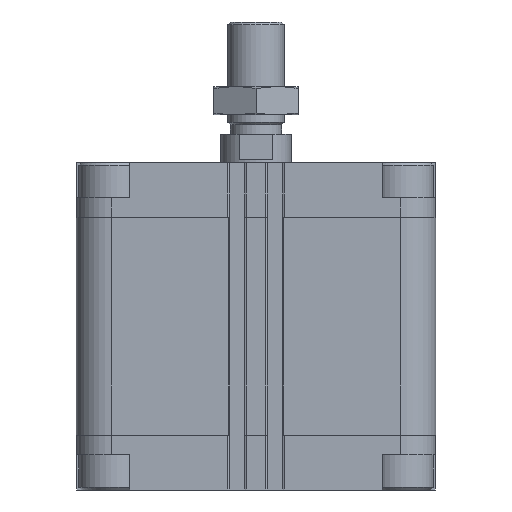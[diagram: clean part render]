
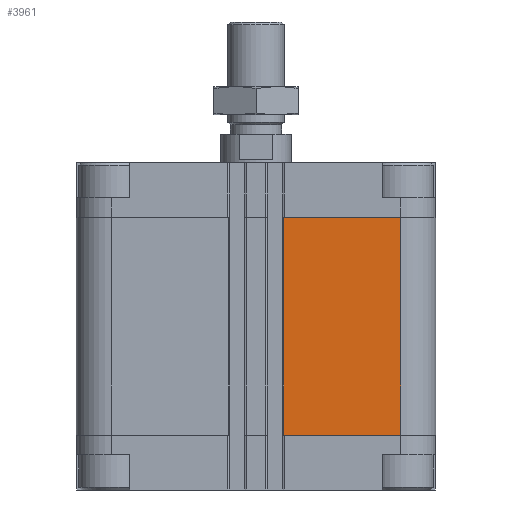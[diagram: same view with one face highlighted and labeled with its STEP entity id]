
A CAD part, front view. The second image highlights one B-rep face of the part: STEP entity #3961.
In plain terms, the highlighted planar face has unit normal (0, -1, 0).
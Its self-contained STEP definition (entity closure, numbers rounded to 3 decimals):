
#1477 = EDGE_CURVE ( 'NONE', #13736, #18352, #7879, .T. ) ;
#1936 = CARTESIAN_POINT ( 'NONE',  ( 51.5, -64., -97. ) ) ;
#2299 = LINE ( 'NONE', #15270, #6218 ) ;
#3273 = EDGE_CURVE ( 'NONE', #14099, #18352, #5428, .T. ) ;
#3554 = DIRECTION ( 'NONE',  ( 1., 0., 0. ) ) ;
#3961 = ADVANCED_FACE ( 'NONE', ( #14646 ), #14748, .T. ) ;
#3980 = ORIENTED_EDGE ( 'NONE', *, *, #16015, .T. ) ;
#5192 = LINE ( 'NONE', #15420, #13385 ) ;
#5428 = LINE ( 'NONE', #1936, #15079 ) ;
#5575 = EDGE_LOOP ( 'NONE', ( #13918, #18351, #3980, #19923 ) ) ;
#6218 = VECTOR ( 'NONE', #10540, 1000. ) ;
#6373 = VECTOR ( 'NONE', #19770, 1000. ) ;
#7850 = CARTESIAN_POINT ( 'NONE',  ( 9.95, -64., -19.5 ) ) ;
#7879 = LINE ( 'NONE', #13064, #6373 ) ;
#9357 = DIRECTION ( 'NONE',  ( 0., -1., 0. ) ) ;
#9586 = CARTESIAN_POINT ( 'NONE',  ( 51.5, -64., -97. ) ) ;
#10540 = DIRECTION ( 'NONE',  ( 0., 0., 1. ) ) ;
#12150 = DIRECTION ( 'NONE',  ( 0., 0., 1. ) ) ;
#13064 = CARTESIAN_POINT ( 'NONE',  ( 9.95, -64., -19.5 ) ) ;
#13385 = VECTOR ( 'NONE', #3554, 1000. ) ;
#13736 = VERTEX_POINT ( 'NONE', #7850 ) ;
#13918 = ORIENTED_EDGE ( 'NONE', *, *, #1477, .F. ) ;
#13938 = VERTEX_POINT ( 'NONE', #13999 ) ;
#13999 = CARTESIAN_POINT ( 'NONE',  ( 9.95, -64., -97. ) ) ;
#14099 = VERTEX_POINT ( 'NONE', #9586 ) ;
#14646 = FACE_OUTER_BOUND ( 'NONE', #5575, .T. ) ;
#14748 = PLANE ( 'NONE',  #19263 ) ;
#15079 = VECTOR ( 'NONE', #12150, 1000. ) ;
#15270 = CARTESIAN_POINT ( 'NONE',  ( 9.95, -64., -97. ) ) ;
#15420 = CARTESIAN_POINT ( 'NONE',  ( 9.95, -64., -97. ) ) ;
#16015 = EDGE_CURVE ( 'NONE', #13938, #14099, #5192, .T. ) ;
#16185 = DIRECTION ( 'NONE',  ( -1., 0., 0. ) ) ;
#17224 = CARTESIAN_POINT ( 'NONE',  ( 51.5, -64., -19.5 ) ) ;
#18351 = ORIENTED_EDGE ( 'NONE', *, *, #19343, .F. ) ;
#18352 = VERTEX_POINT ( 'NONE', #17224 ) ;
#19263 = AXIS2_PLACEMENT_3D ( 'NONE', #21475, #9357, #16185 ) ;
#19343 = EDGE_CURVE ( 'NONE', #13938, #13736, #2299, .T. ) ;
#19770 = DIRECTION ( 'NONE',  ( 1., 0., 0. ) ) ;
#19923 = ORIENTED_EDGE ( 'NONE', *, *, #3273, .T. ) ;
#21475 = CARTESIAN_POINT ( 'NONE',  ( 9.95, -64., -97. ) ) ;
